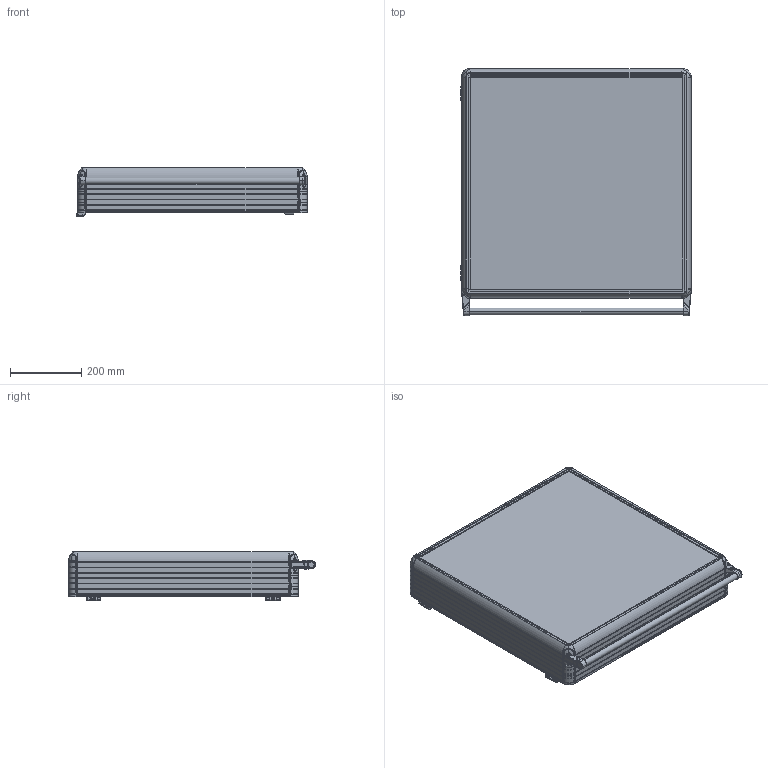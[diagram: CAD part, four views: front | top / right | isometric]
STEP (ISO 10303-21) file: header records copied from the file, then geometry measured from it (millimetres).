
FILE_DESCRIPTION (( 'STEP AP214' ), '1' );
FILE_NAME ('1200-0116.STEP', '2022-09-01T08:01:13', ( '' ), ( '' ), 'SwSTEP 2.0', 'SolidWorks 2022', '' );
FILE_SCHEMA (( 'AUTOMOTIVE_DESIGN' ));
Length unit declared in the file: millimetre
Products named in the file (8): ECO1200-0100(SAÐ); HPECO-120-001-295_595; boru_625; ECO1200-0000; 1200-0116; ECO1200-0100(SOL); ARKA_KAPAK_600X600; 600X600
Assembly tree (11 placements, depth 2):
  1200-0116
    600X600
    ARKA_KAPAK_600X600
    ECO1200-0000  x2
    boru_625
    ECO1200-0100(SAÐ)
    ECO1200-0100(SOL)
    HPECO-120-001-295_595  x4
Bounding box: 649.03 x 695.81 x 139.15 mm (x, y, z)
Volume: 6654081.3 mm3; surface area: 2579891.8 mm2
Topology: 19 solids, 71 shells, 6373 faces, 17195 edges, 10724 vertices
Faces by surface type: plane 2581, cylinder 1652, bspline 1218, cone 582, torus 294, sphere 46
Entity records: 246990 total; most frequent: CARTESIAN_POINT 68947, ORIENTED_EDGE 28370, DIRECTION 22600, EDGE_CURVE 14185, VERTEX_POINT 8853, AXIS2_PLACEMENT_3D 8125, LINE 6350, VECTOR 6350
